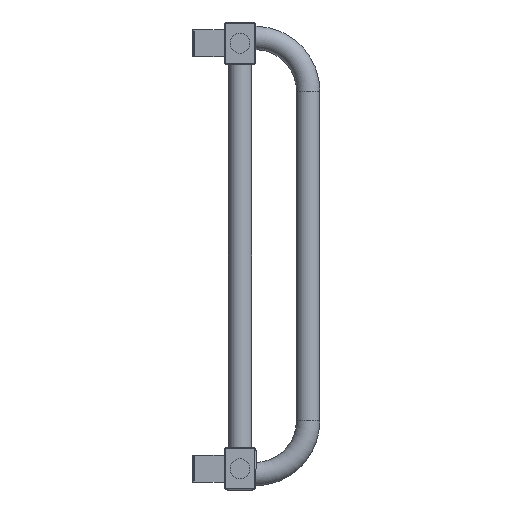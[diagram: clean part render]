
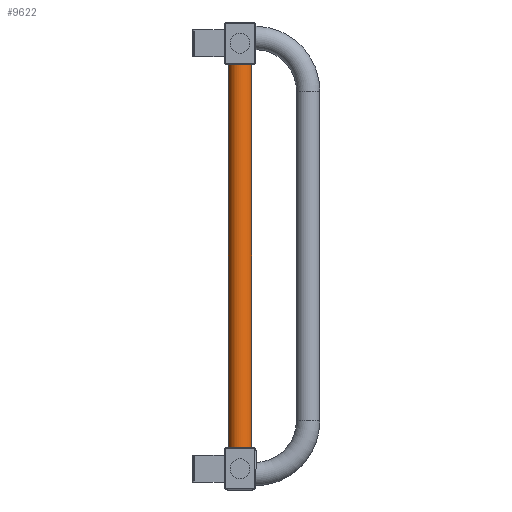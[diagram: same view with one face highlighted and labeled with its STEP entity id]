
A CAD part, left-side view. The second image highlights one B-rep face of the part: STEP entity #9622.
In plain terms, the highlighted cylindrical face has radius 11 mm (diameter 22 mm), a full revolution.
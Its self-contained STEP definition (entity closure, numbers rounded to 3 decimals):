
#9595=CARTESIAN_POINT('',(30.,0.,400.));
#9596=DIRECTION('',(0.,0.,-1.0));
#9597=DIRECTION('',(-0.998,0.06,0.));
#9598=AXIS2_PLACEMENT_3D('',#9595,#9596,#9597);
#9599=CYLINDRICAL_SURFACE('',#9598,11.);
#9600=CARTESIAN_POINT('',(40.98,-0.66,40.));
#9601=VERTEX_POINT('',#9600);
#9602=CARTESIAN_POINT('',(30.,0.,40.0));
#9603=DIRECTION('',(0.,0.,-1.0));
#9604=DIRECTION('',(-0.998,0.06,0.));
#9605=AXIS2_PLACEMENT_3D('',#9602,#9603,#9604);
#9606=CIRCLE('',#9605,11.);
#9607=EDGE_CURVE('',#9601,#9601,#9606,.T.);
#9608=ORIENTED_EDGE('',*,*,#9607,.F.);
#9609=EDGE_LOOP('',(#9608));
#9610=FACE_OUTER_BOUND('',#9609,.T.);
#9611=CARTESIAN_POINT('',(40.98,-0.66,400.));
#9612=VERTEX_POINT('',#9611);
#9613=CARTESIAN_POINT('',(30.,0.,400.));
#9614=DIRECTION('',(0.,0.,1.0));
#9615=DIRECTION('',(-0.998,0.06,0.));
#9616=AXIS2_PLACEMENT_3D('',#9613,#9614,#9615);
#9617=CIRCLE('',#9616,11.);
#9618=EDGE_CURVE('',#9612,#9612,#9617,.T.);
#9619=ORIENTED_EDGE('',*,*,#9618,.F.);
#9620=EDGE_LOOP('',(#9619));
#9621=FACE_BOUND('',#9620,.T.);
#9622=ADVANCED_FACE('',(#9610,#9621),#9599,.T.);
